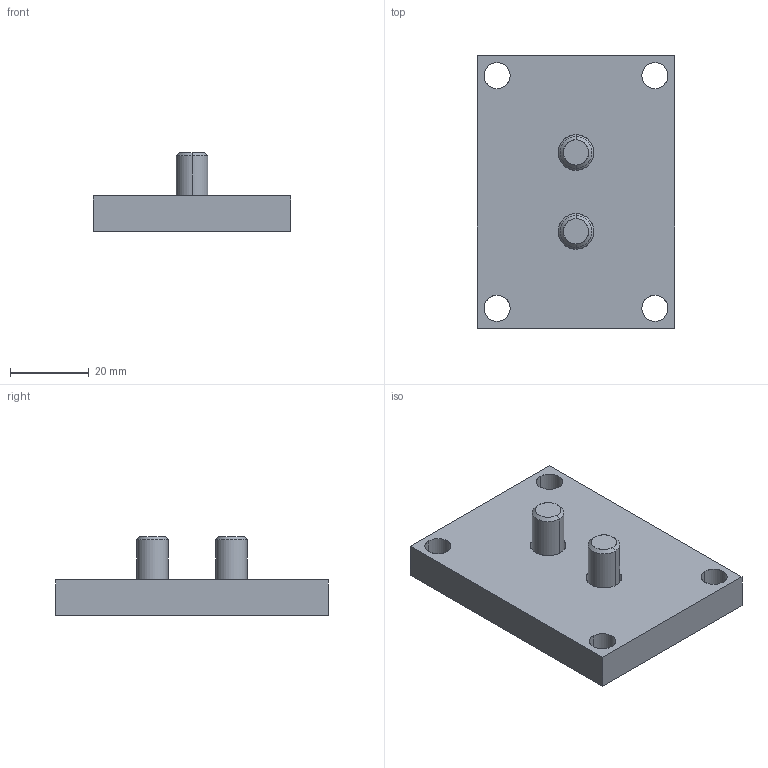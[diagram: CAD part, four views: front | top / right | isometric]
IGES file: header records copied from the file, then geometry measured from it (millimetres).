
Global section: file name: E:\UnigraphicsGraphicData\MISUMI_PRESS-PARTS\IGES\3d_hm-50_04129_r00.igs; native system: NX V5.0; preprocessor: UGS NX IGES V5.0; author: MISUMI; date: 20110105.161017; units: millimetre
Bounding box: 50 x 69 x 20 mm (x, y, z)
Surface area: 11496.2 mm2 (no closed solid volume)
Topology: 0 solids, 0 shells, 52 faces, 336 edges, 336 vertices
Faces by surface type: bspline 52
